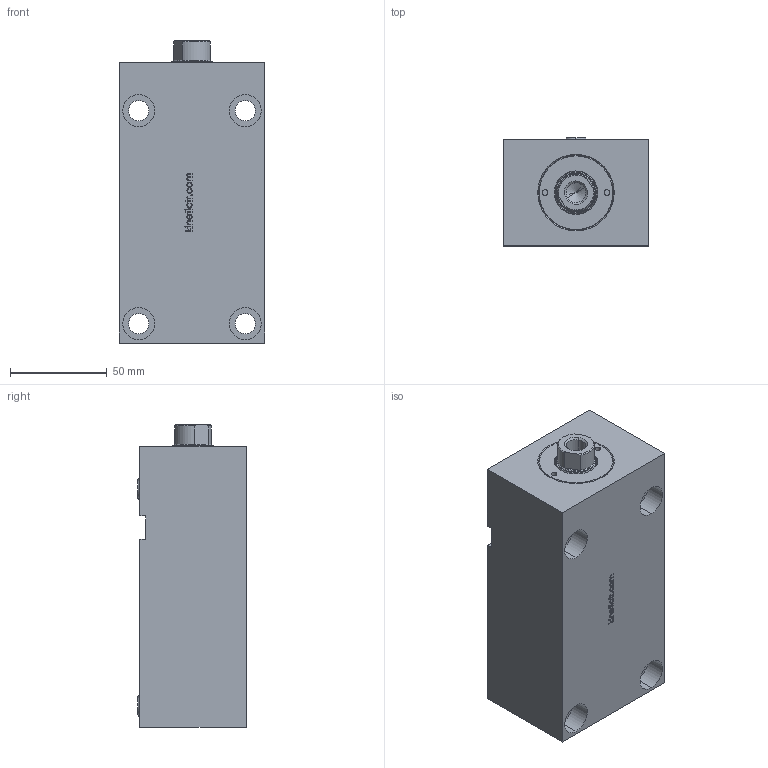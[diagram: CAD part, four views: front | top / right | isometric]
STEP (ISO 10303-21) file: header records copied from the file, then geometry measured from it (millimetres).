
FILE_DESCRIPTION (( 'STEP AP214' ), '1' );
FILE_NAME ('KBZ_11_32_20_95.STEP', '2019-09-15T15:09:45', ( '' ), ( '' ), 'SwSTEP 2.0', 'SolidWorks 2018', '' );
FILE_SCHEMA (( 'AUTOMOTIVE_DESIGN' ));
Length unit declared in the file: millimetre
Products named in the file (6): KBZ_11_32_20_95; KBZ_11_20_MIL_W; KO-6X2_5; KBZ_11_32_ON_kapak_W; kbz_11_32_20_govde_W; K06-20X25X4_3X6
Assembly tree (6 placements, depth 2):
  KBZ_11_32_20_95
    kbz_11_32_20_govde_W
    KBZ_11_20_MIL_W
    KBZ_11_32_ON_kapak_W
    K06-20X25X4_3X6
    KO-6X2_5  x2
Bounding box: 75 x 56 x 156 mm (x, y, z)
Volume: 564454.8 mm3; surface area: 68815.8 mm2
Topology: 6 solids, 6 shells, 325 faces, 785 edges, 504 vertices
Faces by surface type: plane 137, bspline 77, cylinder 62, cone 49
Entity records: 12988 total; most frequent: CARTESIAN_POINT 5553, ORIENTED_EDGE 1550, DIRECTION 1308, EDGE_CURVE 775, VERTEX_POINT 500, LINE 438, VECTOR 438, AXIS2_PLACEMENT_3D 435
